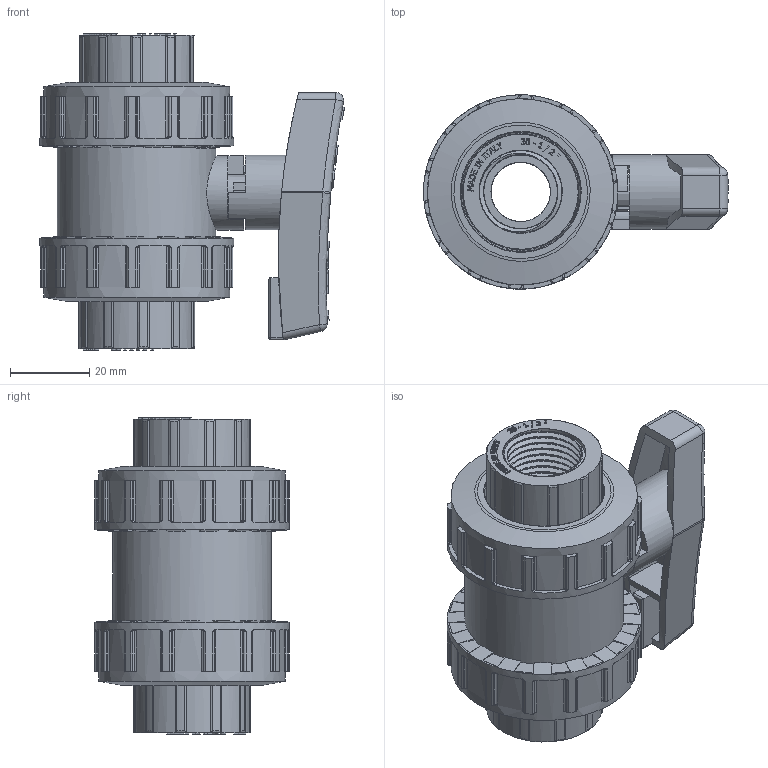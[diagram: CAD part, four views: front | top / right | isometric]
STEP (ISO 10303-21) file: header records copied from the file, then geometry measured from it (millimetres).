
FILE_DESCRIPTION(/* description */ (''),/* implementation_level */ '2;1');
FILE_NAME(/* name */ 'C:\ex desktop\VALVOLE SFERA\BV ACQUA\VALVOLE ACQUA FILETTATE\BVD41020\BVD41020.stp',/* time_stamp */ '2019-04-02T14:43:40+02:00',/* author */ ('e.sacchi'),/* organization */ (''),/* preprocessor_version */ 'ST-DEVELOPER v16.13',/* originating_system */ 'Autodesk Inventor 2018',/* authorisation */ '');
FILE_SCHEMA (('AUTOMOTIVE_DESIGN { 1 0 10303 214 3 1 1 }'));
Length unit declared in the file: millimetre
Products named in the file (12): BVD40020; corpo_BVD_40_D_20; SFERA_BVI_10_d_20; ASTA_BVD_40_d_20; supporto_BVD_40_d_20; LAV2075E; PTFE_BVI_10_d_20; LAV0132E; LAV04075E; COLLARE_BVD_41_d20; GHIERA_BVD_40_d_20; maniglia_BVI_10_d_20
Assembly tree (16 placements, depth 2):
  BVD40020
    corpo_BVD_40_D_20
    LAV2075E  x2
    PTFE_BVI_10_d_20  x2
    SFERA_BVI_10_d_20
    ASTA_BVD_40_d_20
    supporto_BVD_40_d_20
    LAV0132E
    LAV04075E  x2
    COLLARE_BVD_41_d20  x2
    GHIERA_BVD_40_d_20  x2
    maniglia_BVI_10_d_20
Bounding box: 76.9 x 49 x 79.7 mm (x, y, z)
Volume: 90185.2 mm3; surface area: 62405.3 mm2
Topology: 18 solids, 18 shells, 1619 faces, 4362 edges, 2865 vertices
Faces by surface type: plane 844, cylinder 359, bspline 294, torus 97, cone 16, sphere 9
Full cylindrical faces by diameter (mm): 8 x2, 9.5 x1, 12 x1, 15 x5, 18.5 x4, 18.75 x1, 18.8 x1, 20.96 x4, 23 x4, 24 x2, 26.6 x1, 27 x1, 28 x1, 29 x4, 30 x2, 33 x1, 40 x5, 47 x2, 49 x2
Entity records: 46732 total; most frequent: CARTESIAN_POINT 20631, ORIENTED_EDGE 5674, DIRECTION 4787, EDGE_CURVE 2835, VERTEX_POINT 1885, AXIS2_PLACEMENT_3D 1648, LINE 1491, VECTOR 1491
